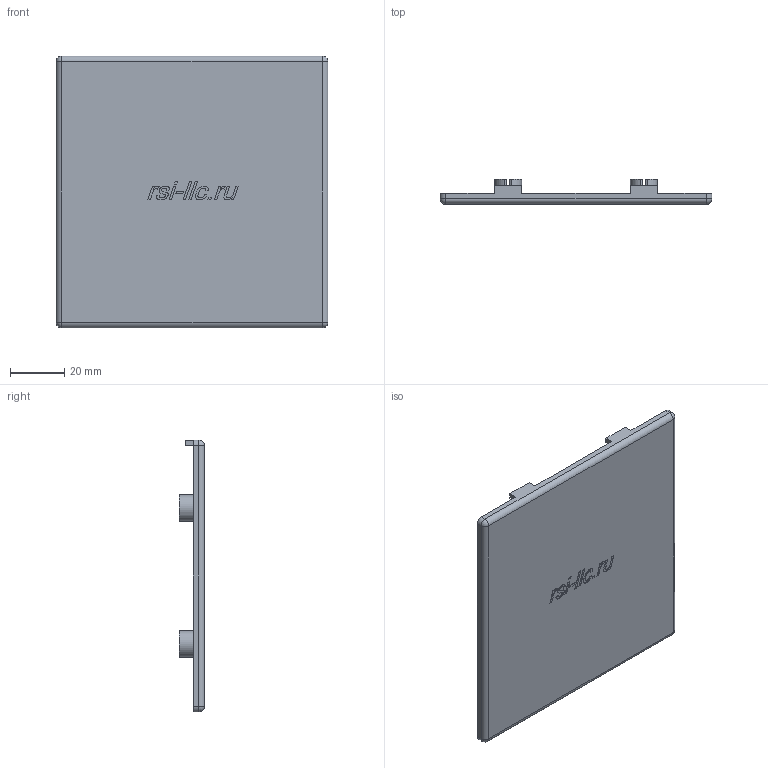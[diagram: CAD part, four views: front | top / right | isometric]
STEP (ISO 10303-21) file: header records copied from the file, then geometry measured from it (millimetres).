
FILE_DESCRIPTION (( 'STEP AP214' ), '1' );
FILE_NAME ('4018.STEP', '2020-10-22T10:08:16', ( '' ), ( '' ), 'SwSTEP 2.0', 'SolidWorks 2018', '' );
FILE_SCHEMA (( 'AUTOMOTIVE_DESIGN' ));
Length unit declared in the file: millimetre
Products named in the file (1): 4018
Bounding box: 100 x 9.3 x 100 mm (x, y, z)
Volume: 22107.6 mm3; surface area: 23575.5 mm2
Topology: 1 solids, 1 shells, 224 faces, 561 edges, 354 vertices
Faces by surface type: plane 88, cylinder 56, torus 44, bspline 32, sphere 4
Entity records: 9477 total; most frequent: CARTESIAN_POINT 3120, ORIENTED_EDGE 1114, DIRECTION 1083, EDGE_CURVE 557, AXIS2_PLACEMENT_3D 397, VERTEX_POINT 354, LINE 289, VECTOR 289
